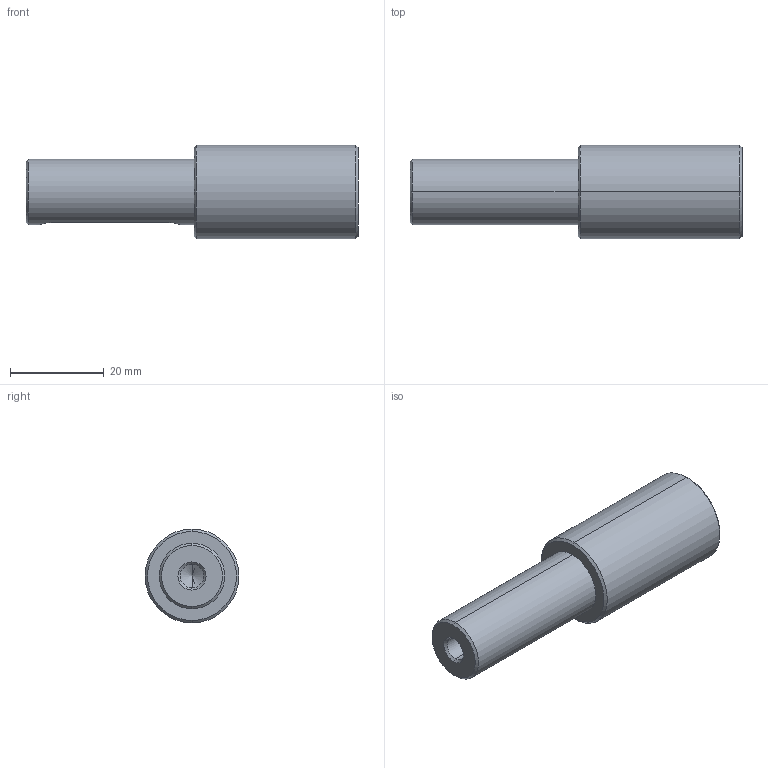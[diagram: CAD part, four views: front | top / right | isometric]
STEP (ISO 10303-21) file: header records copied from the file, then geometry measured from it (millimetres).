
FILE_DESCRIPTION (( 'STEP AP214' ), '1' );
FILE_NAME ('1.8047 Akseli 45 20_14 L70.9 kiila 5x30.STEP', '2024-03-15T06:29:09', ( '' ), ( '' ), 'SwSTEP 2.0', 'SolidWorks 2024', '' );
FILE_SCHEMA (( 'AUTOMOTIVE_DESIGN' ));
Length unit declared in the file: millimetre
Products named in the file (1): 1.8047 Akseli  45 20_14 L70.9 kiila 5x30
Bounding box: 70.9 x 20 x 20 mm (x, y, z)
Volume: 15585.6 mm3; surface area: 4914.7 mm2
Topology: 1 solids, 1 shells, 25 faces, 55 edges, 32 vertices
Faces by surface type: cone 10, cylinder 9, plane 6
Entity records: 749 total; most frequent: CARTESIAN_POINT 175, DIRECTION 124, ORIENTED_EDGE 106, EDGE_CURVE 53, AXIS2_PLACEMENT_3D 49, VERTEX_POINT 32, EDGE_LOOP 27, VECTOR 26
